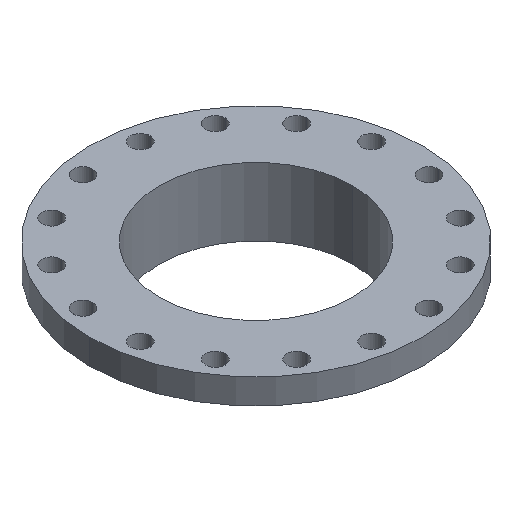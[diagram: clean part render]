
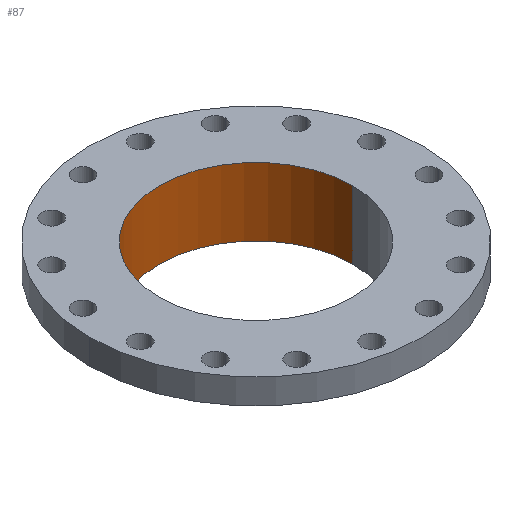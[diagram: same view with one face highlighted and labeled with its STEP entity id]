
A CAD part, isometric view. The second image highlights one B-rep face of the part: STEP entity #87.
In plain terms, the highlighted cylindrical face has radius 192.2 mm (diameter 384.4 mm), a partial arc.
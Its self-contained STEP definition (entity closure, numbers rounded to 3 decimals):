
#7 = DIRECTION ( 'NONE',  ( 0., 0., -1. ) ) ;
#87 = ADVANCED_FACE ( 'NONE', ( #684 ), #681, .F. ) ;
#220 = DIRECTION ( 'NONE',  ( 0., 0., -1. ) ) ;
#224 = CIRCLE ( 'NONE', #1583, 192.2 ) ;
#239 = CARTESIAN_POINT ( 'NONE',  ( 192.2, 0., -135. ) ) ;
#261 = DIRECTION ( 'NONE',  ( -1., 0., 0. ) ) ;
#263 = DIRECTION ( 'NONE',  ( 0., 0., -1. ) ) ;
#264 = CARTESIAN_POINT ( 'NONE',  ( 0., 0., -135. ) ) ;
#271 = AXIS2_PLACEMENT_3D ( 'NONE', #680, #679, #678 ) ;
#302 = CARTESIAN_POINT ( 'NONE',  ( -192.2, 0., -135. ) ) ;
#368 = DIRECTION ( 'NONE',  ( 0., 0., -1. ) ) ;
#369 = CARTESIAN_POINT ( 'NONE',  ( 192.2, 0., -145. ) ) ;
#375 = LINE ( 'NONE', #369, #1533 ) ;
#678 = DIRECTION ( 'NONE',  ( -1., 0., 0. ) ) ;
#679 = DIRECTION ( 'NONE',  ( 0., 0., -1. ) ) ;
#680 = CARTESIAN_POINT ( 'NONE',  ( 0., 0., -145. ) ) ;
#681 = CYLINDRICAL_SURFACE ( 'NONE', #271, 192.2 ) ;
#684 = FACE_OUTER_BOUND ( 'NONE', #1313, .T. ) ;
#757 = EDGE_CURVE ( 'NONE', #1287, #1295, #224, .T. ) ;
#844 = DIRECTION ( 'NONE',  ( -1., 0., 0. ) ) ;
#1041 = LINE ( 'NONE', #1475, #1593 ) ;
#1065 = ORIENTED_EDGE ( 'NONE', *, *, #1265, .F. ) ;
#1066 = ORIENTED_EDGE ( 'NONE', *, *, #1468, .F. ) ;
#1068 = ORIENTED_EDGE ( 'NONE', *, *, #1476, .T. ) ;
#1069 = ORIENTED_EDGE ( 'NONE', *, *, #757, .T. ) ;
#1265 = EDGE_CURVE ( 'NONE', #1302, #1295, #375, .T. ) ;
#1287 = VERTEX_POINT ( 'NONE', #302 ) ;
#1295 = VERTEX_POINT ( 'NONE', #239 ) ;
#1302 = VERTEX_POINT ( 'NONE', #1513 ) ;
#1313 = EDGE_LOOP ( 'NONE', ( #1065, #1066, #1068, #1069 ) ) ;
#1341 = VERTEX_POINT ( 'NONE', #1617 ) ;
#1423 = CARTESIAN_POINT ( 'NONE',  ( 0., 0., 0. ) ) ;
#1468 = EDGE_CURVE ( 'NONE', #1341, #1302, #1607, .T. ) ;
#1475 = CARTESIAN_POINT ( 'NONE',  ( -192.2, 0., -145. ) ) ;
#1476 = EDGE_CURVE ( 'NONE', #1341, #1287, #1041, .T. ) ;
#1513 = CARTESIAN_POINT ( 'NONE',  ( 192.2, 0., 0. ) ) ;
#1533 = VECTOR ( 'NONE', #368, 1000. ) ;
#1583 = AXIS2_PLACEMENT_3D ( 'NONE', #264, #263, #261 ) ;
#1593 = VECTOR ( 'NONE', #220, 1000. ) ;
#1602 = AXIS2_PLACEMENT_3D ( 'NONE', #1423, #7, #844 ) ;
#1607 = CIRCLE ( 'NONE', #1602, 192.2 ) ;
#1617 = CARTESIAN_POINT ( 'NONE',  ( -192.2, 0., 0. ) ) ;
